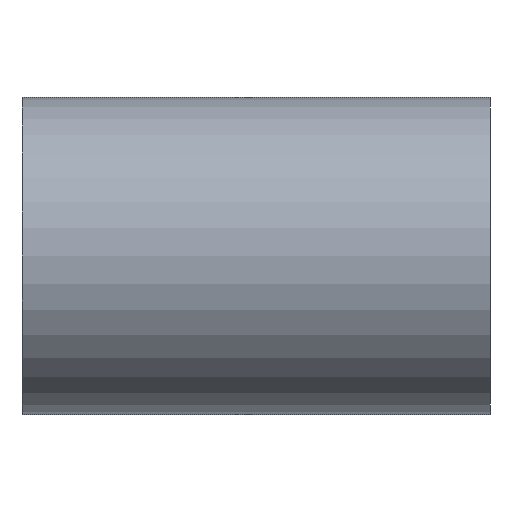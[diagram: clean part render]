
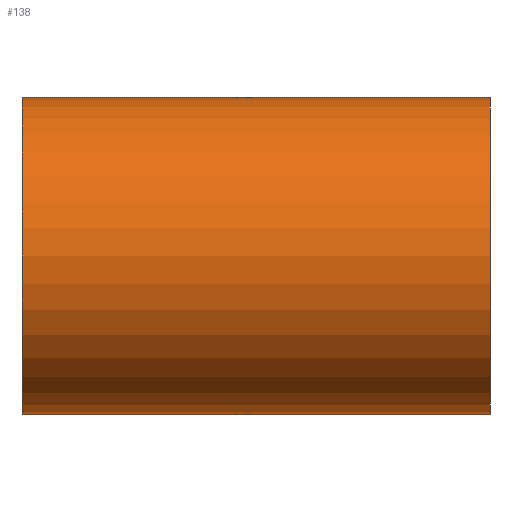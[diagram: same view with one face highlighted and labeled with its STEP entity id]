
A CAD part, front view. The second image highlights one B-rep face of the part: STEP entity #138.
In plain terms, the highlighted cylindrical face has radius 305 mm (diameter 610 mm), a partial arc.
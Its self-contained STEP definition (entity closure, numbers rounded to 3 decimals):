
#138=ADVANCED_FACE('',(#278),#279,.T.);
#278=FACE_OUTER_BOUND('',#429,.T.);
#279=CYLINDRICAL_SURFACE('',#430,305.0);
#429=EDGE_LOOP('',(#775,#776,#777,#778));
#430=AXIS2_PLACEMENT_3D('',#779,#780,#781);
#775=ORIENTED_EDGE('',*,*,#831,.T.);
#776=ORIENTED_EDGE('',*,*,#973,.F.);
#777=ORIENTED_EDGE('',*,*,#833,.T.);
#778=ORIENTED_EDGE('',*,*,#974,.F.);
#779=CARTESIAN_POINT('',(0.0,0.0,0.0));
#780=DIRECTION('',(1.0,0.0,0.0));
#781=DIRECTION('',(0.0,0.0,-1.0));
#831=EDGE_CURVE('',#978,#979,#980,.T.);
#833=EDGE_CURVE('',#983,#981,#984,.T.);
#973=EDGE_CURVE('',#983,#979,#1191,.T.);
#974=EDGE_CURVE('',#978,#981,#1192,.T.);
#978=VERTEX_POINT('',#1196);
#979=VERTEX_POINT('',#1197);
#980=LINE('',#1198,#1199);
#981=VERTEX_POINT('',#1200);
#983=VERTEX_POINT('',#1202);
#984=LINE('',#1203,#1204);
#1191=CIRCLE('',#1455,305.0);
#1192=CIRCLE('',#1456,305.0);
#1196=CARTESIAN_POINT('',(-450.0,0.0,-305.0));
#1197=CARTESIAN_POINT('',(450.0,0.0,-305.0));
#1198=CARTESIAN_POINT('',(0.0,0.,-305.0));
#1199=VECTOR('',#1459,1.0);
#1200=CARTESIAN_POINT('',(-450.0,0.,305.0));
#1202=CARTESIAN_POINT('',(450.0,0.,305.0));
#1203=CARTESIAN_POINT('',(0.0,0.,305.0));
#1204=VECTOR('',#1463,1.0);
#1455=AXIS2_PLACEMENT_3D('',#1682,#1683,#1684);
#1456=AXIS2_PLACEMENT_3D('',#1685,#1686,#1687);
#1459=DIRECTION('',(1.0,0.0,0.0));
#1463=DIRECTION('',(-1.0,-0.0,-0.0));
#1682=CARTESIAN_POINT('',(450.0,0.0,0.0));
#1683=DIRECTION('',(1.0,0.0,0.0));
#1684=DIRECTION('',(0.0,0.0,-1.0));
#1685=CARTESIAN_POINT('',(-450.0,0.0,0.0));
#1686=DIRECTION('',(-1.0,0.0,0.0));
#1687=DIRECTION('',(0.0,0.0,-1.0));
